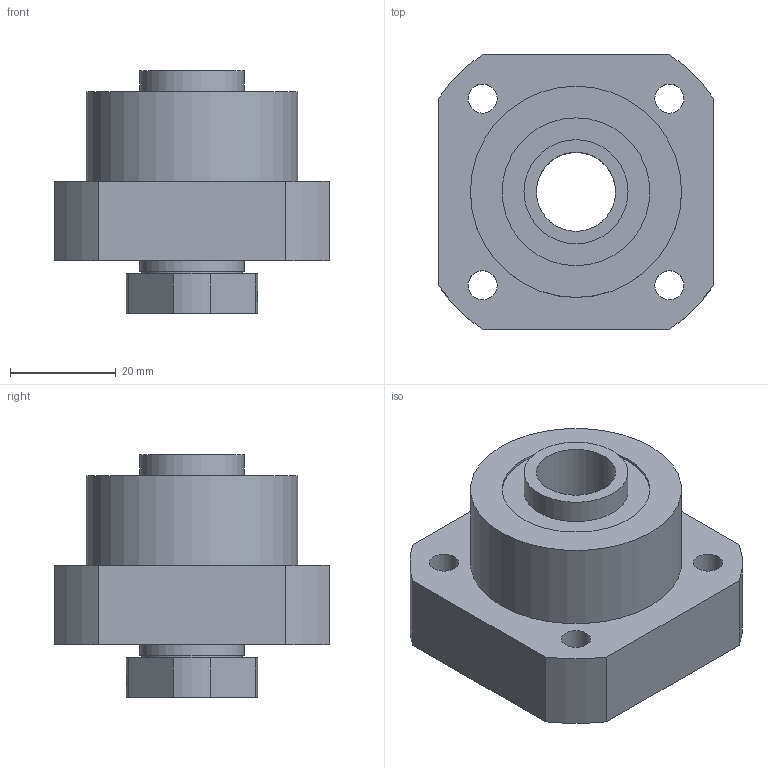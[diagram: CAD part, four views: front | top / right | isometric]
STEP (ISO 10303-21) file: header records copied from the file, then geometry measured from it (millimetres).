
FILE_DESCRIPTION(/* description */ (''),/* implementation_level */ '2;1');
FILE_NAME(/* name */ 'C:\Users\tenki620635\Desktop\官網\圖面\軸承座\3D\setp檔\FK15-Atype.stp',/* time_stamp */ '2020-12-18T19:55:21+08:00',/* author */ ('tenki620635'),/* organization */ (''),/* preprocessor_version */ 'ST-DEVELOPER v15.2',/* originating_system */ 'Autodesk Inventor 2014',/* authorisation */ '');
FILE_SCHEMA (('AUTOMOTIVE_DESIGN { 1 0 10303 214 3 1 1 }'));
Length unit declared in the file: millimetre
Products named in the file (1): FK15-Atype
Bounding box: 52 x 52 x 46 mm (x, y, z)
Volume: 54361.4 mm3; surface area: 14618.6 mm2
Topology: 1 solids, 1 shells, 46 faces, 106 edges, 72 vertices
Faces by surface type: cylinder 25, plane 21
Full cylindrical faces by diameter (mm): 3.242 x2, 5.5 x4, 9.5 x4, 15 x1, 19 x1, 19.7 x2, 28 x2, 40 x1
Entity records: 1375 total; most frequent: CARTESIAN_POINT 335, DIRECTION 218, ORIENTED_EDGE 168, AXIS2_PLACEMENT_3D 93, EDGE_LOOP 88, EDGE_CURVE 84, VERTEX_POINT 68, FACE_BOUND 54
